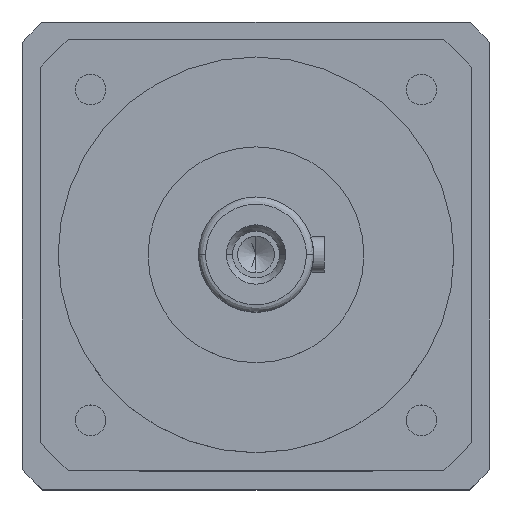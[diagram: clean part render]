
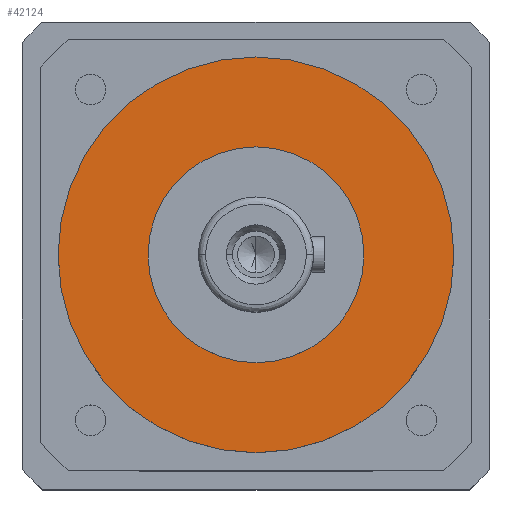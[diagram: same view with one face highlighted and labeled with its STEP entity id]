
A CAD part, top view. The second image highlights one B-rep face of the part: STEP entity #42124.
In plain terms, the highlighted planar face has unit normal (0, 0, 1).
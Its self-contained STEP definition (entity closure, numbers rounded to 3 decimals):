
#730 = ORIENTED_EDGE ( 'NONE', *, *, #17000, .F. ) ;
#2603 = DIRECTION ( 'NONE',  ( 1., 0., 0. ) ) ;
#2921 = EDGE_LOOP ( 'NONE', ( #730, #33336 ) ) ;
#2987 = AXIS2_PLACEMENT_3D ( 'NONE', #12172, #36600, #15657 ) ;
#3066 = CIRCLE ( 'NONE', #44343, 55. ) ;
#4263 = CARTESIAN_POINT ( 'NONE',  ( 0., 0., -52. ) ) ;
#6487 = EDGE_CURVE ( 'NONE', #25629, #33901, #21191, .T. ) ;
#7815 = DIRECTION ( 'NONE',  ( 1., 0., 0. ) ) ;
#8524 = ORIENTED_EDGE ( 'NONE', *, *, #39739, .F. ) ;
#8845 = AXIS2_PLACEMENT_3D ( 'NONE', #38378, #17443, #41883 ) ;
#8991 = CARTESIAN_POINT ( 'NONE',  ( 0., 30., -52. ) ) ;
#10246 = EDGE_LOOP ( 'NONE', ( #42531, #8524 ) ) ;
#12172 = CARTESIAN_POINT ( 'NONE',  ( 0., 0., -52. ) ) ;
#12506 = PLANE ( 'NONE',  #31722 ) ;
#13932 = VERTEX_POINT ( 'NONE', #19679 ) ;
#15657 = DIRECTION ( 'NONE',  ( 1., 0., 0. ) ) ;
#16563 = CARTESIAN_POINT ( 'NONE',  ( -55., 0., -52. ) ) ;
#16679 = FACE_OUTER_BOUND ( 'NONE', #10246, .T. ) ;
#17000 = EDGE_CURVE ( 'NONE', #33901, #25629, #39424, .T. ) ;
#17443 = DIRECTION ( 'NONE',  ( 0., 0., -1. ) ) ;
#19046 = AXIS2_PLACEMENT_3D ( 'NONE', #4263, #28752, #7815 ) ;
#19362 = DIRECTION ( 'NONE',  ( 0., 0., -1. ) ) ;
#19679 = CARTESIAN_POINT ( 'NONE',  ( 55., 0., -52. ) ) ;
#20058 = VERTEX_POINT ( 'NONE', #16563 ) ;
#21191 = CIRCLE ( 'NONE', #19046, 30. ) ;
#23550 = DIRECTION ( 'NONE',  ( 0., 0., -1. ) ) ;
#25629 = VERTEX_POINT ( 'NONE', #33016 ) ;
#28752 = DIRECTION ( 'NONE',  ( 0., 0., 1. ) ) ;
#31722 = AXIS2_PLACEMENT_3D ( 'NONE', #8991, #19362, #36938 ) ;
#33016 = CARTESIAN_POINT ( 'NONE',  ( -30., 0., -52. ) ) ;
#33336 = ORIENTED_EDGE ( 'NONE', *, *, #6487, .F. ) ;
#33602 = EDGE_CURVE ( 'NONE', #13932, #20058, #3066, .T. ) ;
#33901 = VERTEX_POINT ( 'NONE', #39901 ) ;
#34168 = FACE_BOUND ( 'NONE', #2921, .T. ) ;
#36600 = DIRECTION ( 'NONE',  ( 0., 0., 1. ) ) ;
#36938 = DIRECTION ( 'NONE',  ( -1., 0., 0. ) ) ;
#38378 = CARTESIAN_POINT ( 'NONE',  ( 0., 0., -52. ) ) ;
#39424 = CIRCLE ( 'NONE', #2987, 30. ) ;
#39461 = CIRCLE ( 'NONE', #8845, 55. ) ;
#39739 = EDGE_CURVE ( 'NONE', #20058, #13932, #39461, .T. ) ;
#39901 = CARTESIAN_POINT ( 'NONE',  ( 30., 0., -52. ) ) ;
#41883 = DIRECTION ( 'NONE',  ( 1., 0., 0. ) ) ;
#42124 = ADVANCED_FACE ( 'NONE', ( #16679, #34168 ), #12506, .F. ) ;
#42531 = ORIENTED_EDGE ( 'NONE', *, *, #33602, .F. ) ;
#44343 = AXIS2_PLACEMENT_3D ( 'NONE', #44471, #23550, #2603 ) ;
#44471 = CARTESIAN_POINT ( 'NONE',  ( 0., 0., -52. ) ) ;
